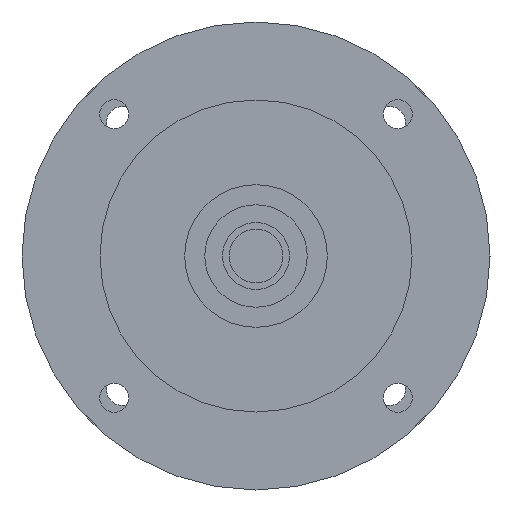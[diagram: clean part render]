
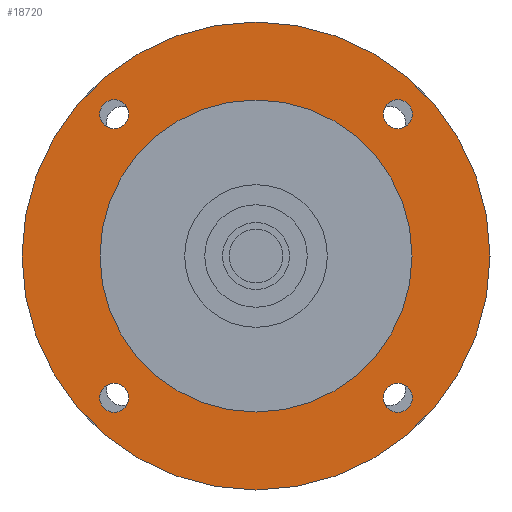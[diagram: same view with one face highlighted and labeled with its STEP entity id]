
A CAD part, left-side view. The second image highlights one B-rep face of the part: STEP entity #18720.
In plain terms, the highlighted planar face has unit normal (-1, 0, 0) as drawn and (0, 0, -1) by its records, which use the part's own axes.
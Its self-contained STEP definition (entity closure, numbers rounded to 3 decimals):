
#17560=CARTESIAN_POINT('',(-31.82,-28.57,-42.));
#17570=VERTEX_POINT('',#17560);
#17600=CARTESIAN_POINT('',(-31.82,-31.82,-42.));
#17610=DIRECTION('',(0.,0.,-1.));
#17620=DIRECTION('',(0.,-1.,0.));
#17630=AXIS2_PLACEMENT_3D('',#17600,#17610,#17620);
#17640=CIRCLE('',#17630,3.25);
#17650=CARTESIAN_POINT('',(-31.82,-35.07,-42.));
#17660=VERTEX_POINT('',#17650);
#17670=EDGE_CURVE('',#17660,#17570,#17640,.T.);
#17790=CARTESIAN_POINT('',(0.,0.,-42.)
);
#17800=DIRECTION('',(0.,0.,-1.));
#17810=DIRECTION('',(1.,0.,0.));
#17820=AXIS2_PLACEMENT_3D('',#17790,#17800,#17810);
#17830=PLANE('',#17820);
#17840=CARTESIAN_POINT('',(31.82,-31.82,-42.));
#17850=DIRECTION('',(0.,0.,-1.));
#17860=DIRECTION('',(1.,0.,0.));
#17870=AXIS2_PLACEMENT_3D('',#17840,#17850,#17860);
#17880=CIRCLE('',#17870,3.25);
#17890=CARTESIAN_POINT('',(35.07,-31.82,-42.));
#17900=VERTEX_POINT('',#17890);
#17910=CARTESIAN_POINT('',(28.57,-31.82,-42.));
#17920=VERTEX_POINT('',#17910);
#17930=EDGE_CURVE('',#17900,#17920,#17880,.T.);
#17940=ORIENTED_EDGE('',*,*,#17930,.F.);
#17950=EDGE_CURVE('',#17920,#17900,#17880,.T.);
#17960=ORIENTED_EDGE('',*,*,#17950,.F.);
#17970=EDGE_LOOP('',(#17960,#17940));
#17980=FACE_BOUND('',#17970,.T.);
#17990=CARTESIAN_POINT('',(0.,0.,-42.)
);
#18000=DIRECTION('',(0.,0.,-1.));
#18010=DIRECTION('',(0.,-1.,0.));
#18020=AXIS2_PLACEMENT_3D('',#17990,#18000,#18010);
#18030=CIRCLE('',#18020,52.5);
#18040=CARTESIAN_POINT('',(-52.5,0.,-42.));
#18050=VERTEX_POINT('',#18040);
#18060=CARTESIAN_POINT('',(52.5,0.,-42.));
#18070=VERTEX_POINT('',#18060);
#18080=EDGE_CURVE('',#18050,#18070,#18030,.T.);
#18090=ORIENTED_EDGE('',*,*,#18080,.T.);
#18100=CARTESIAN_POINT('',(0.,-52.5,-42.));
#18110=VERTEX_POINT('',#18100);
#18120=EDGE_CURVE('',#18110,#18050,#18030,.T.);
#18130=ORIENTED_EDGE('',*,*,#18120,.T.);
#18140=EDGE_CURVE('',#18070,#18110,#18030,.T.);
#18150=ORIENTED_EDGE('',*,*,#18140,.T.);
#18160=EDGE_LOOP('',(#18150,#18130,#18090));
#18170=FACE_OUTER_BOUND('',#18160,.T.);
#18180=CARTESIAN_POINT('',(31.82,31.82,-42.));
#18190=DIRECTION('',(0.,0.,-1.));
#18200=DIRECTION('',(0.,1.,0.));
#18210=AXIS2_PLACEMENT_3D('',#18180,#18190,#18200);
#18220=CIRCLE('',#18210,3.25);
#18230=CARTESIAN_POINT('',(31.82,35.07,-42.));
#18240=VERTEX_POINT('',#18230);
#18250=CARTESIAN_POINT('',(31.82,28.57,-42.));
#18260=VERTEX_POINT('',#18250);
#18270=EDGE_CURVE('',#18240,#18260,#18220,.T.);
#18280=ORIENTED_EDGE('',*,*,#18270,.F.);
#18290=EDGE_CURVE('',#18260,#18240,#18220,.T.);
#18300=ORIENTED_EDGE('',*,*,#18290,.F.);
#18310=EDGE_LOOP('',(#18300,#18280));
#18320=FACE_BOUND('',#18310,.T.);
#18330=CARTESIAN_POINT('',(-31.82,31.82,-42.));
#18340=DIRECTION('',(0.,0.,-1.));
#18350=DIRECTION('',(-1.,0.,0.));
#18360=AXIS2_PLACEMENT_3D('',#18330,#18340,#18350);
#18370=CIRCLE('',#18360,3.25);
#18380=CARTESIAN_POINT('',(-35.07,31.82,-42.));
#18390=VERTEX_POINT('',#18380);
#18400=CARTESIAN_POINT('',(-28.57,31.82,-42.));
#18410=VERTEX_POINT('',#18400);
#18420=EDGE_CURVE('',#18390,#18410,#18370,.T.);
#18430=ORIENTED_EDGE('',*,*,#18420,.F.);
#18440=EDGE_CURVE('',#18410,#18390,#18370,.T.);
#18450=ORIENTED_EDGE('',*,*,#18440,.F.);
#18460=EDGE_LOOP('',(#18450,#18430));
#18470=FACE_BOUND('',#18460,.T.);
#18480=ORIENTED_EDGE('',*,*,#17670,.F.);
#18490=EDGE_CURVE('',#17570,#17660,#17640,.T.);
#18500=ORIENTED_EDGE('',*,*,#18490,.F.);
#18510=EDGE_LOOP('',(#18500,#18480));
#18520=FACE_BOUND('',#18510,.T.);
#18530=CARTESIAN_POINT('',(0.,0.,
-42.));
#18540=DIRECTION('',(0.,0.,1.));
#18550=DIRECTION('',(0.,1.,0.));
#18560=AXIS2_PLACEMENT_3D('',#18530,#18540,#18550);
#18570=CIRCLE('',#18560,35.);
#18580=CARTESIAN_POINT('',(-35.,0.,-42.));
#18590=VERTEX_POINT('',#18580);
#18600=CARTESIAN_POINT('',(35.,0.,-42.));
#18610=VERTEX_POINT('',#18600);
#18620=EDGE_CURVE('',#18590,#18610,#18570,.T.);
#18630=ORIENTED_EDGE('',*,*,#18620,.T.);
#18640=CARTESIAN_POINT('',(0.,35.,-42.));
#18650=VERTEX_POINT('',#18640);
#18660=EDGE_CURVE('',#18650,#18590,#18570,.T.);
#18670=ORIENTED_EDGE('',*,*,#18660,.T.);
#18680=EDGE_CURVE('',#18610,#18650,#18570,.T.);
#18690=ORIENTED_EDGE('',*,*,#18680,.T.);
#18700=EDGE_LOOP('',(#18690,#18670,#18630));
#18710=FACE_BOUND('',#18700,.T.);
#18720=ADVANCED_FACE('',(#17980,#18170,#18320,#18470,#18520,#18710),
#17830,.T.);
